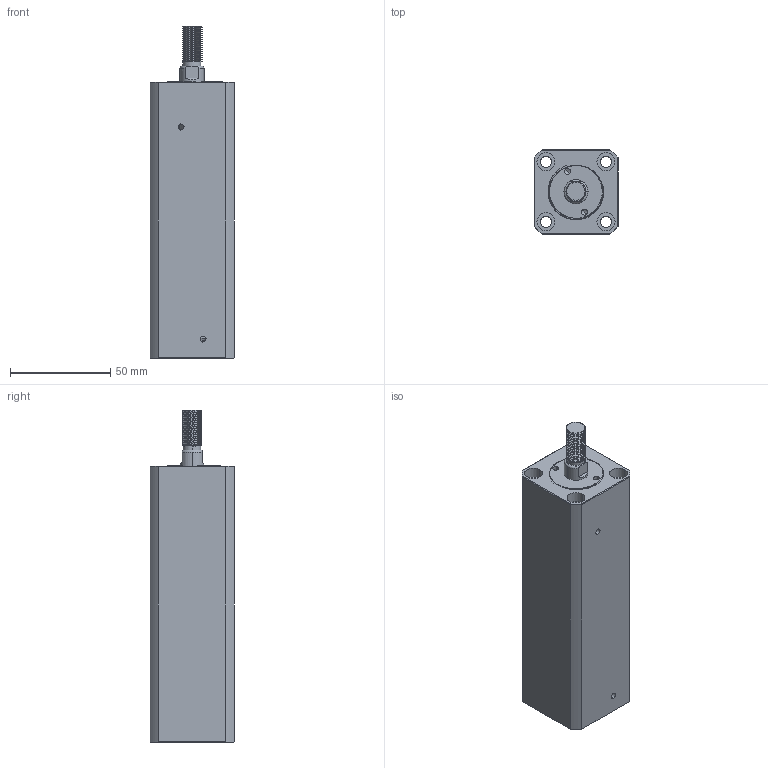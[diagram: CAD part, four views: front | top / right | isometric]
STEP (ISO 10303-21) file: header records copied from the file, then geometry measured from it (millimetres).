
FILE_DESCRIPTION (( 'STEP AP214' ), '1' );
FILE_NAME ('chtb-sdmb20x95w_asm.STEP', '2018-05-18T08:38:40', ( 'Windows' ), ( 'Microsoft' ), 'SwSTEP 2.0', 'SolidWorks 2015', '' );
FILE_SCHEMA (( 'AUTOMOTIVE_DESIGN' ));
Length unit declared in the file: millimetre
Products named in the file (4): QG_3; CHTB-SDMB20X95WHSG; CHTB-SDMB20X95NBT; chtb-sdmb20x95w_asm
Assembly tree (3 placements, depth 2):
  chtb-sdmb20x95w_asm
    CHTB-SDMB20X95NBT
    CHTB-SDMB20X95WHSG
    QG_3
Bounding box: 42 x 42 x 166 mm (x, y, z)
Volume: 204947.8 mm3; surface area: 57000.6 mm2
Topology: 3 solids, 3 shells, 243 faces, 660 edges, 439 vertices
Faces by surface type: cylinder 143, plane 47, torus 25, bspline 23, cone 5
Entity records: 14768 total; most frequent: CARTESIAN_POINT 8984, ORIENTED_EDGE 1312, DIRECTION 1058, EDGE_CURVE 656, VERTEX_POINT 439, AXIS2_PLACEMENT_3D 434, EDGE_LOOP 281, FACE_OUTER_BOUND 243
